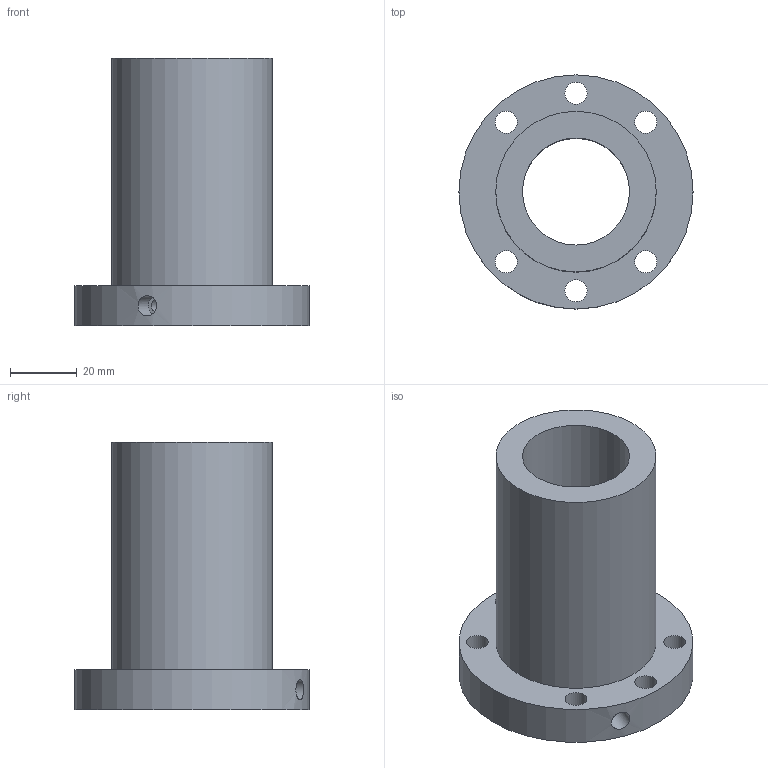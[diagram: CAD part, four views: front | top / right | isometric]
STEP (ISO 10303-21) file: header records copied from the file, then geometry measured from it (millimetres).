
FILE_DESCRIPTION(/* description */ (''),/* implementation_level */ '2;1');
FILE_NAME(/* name */ '32-5K4_3175',/* time_stamp */ '2007-10-15T12:54:00+08:00',/* author */ (''),/* organization */ (''),/* preprocessor_version */ 'ST-DEVELOPER v11',/* originating_system */ 'UGS - NX 5.0',/* authorisation */ '');
FILE_SCHEMA (('CONFIG_CONTROL_DESIGN'));
Length unit declared in the file: millimetre
Products named in the file (1): 32-5K4_3175
Bounding box: 70 x 70 x 80 mm (x, y, z)
Volume: 102064.5 mm3; surface area: 28369.8 mm2
Topology: 1 solids, 1 shells, 15 faces, 34 edges, 23 vertices
Faces by surface type: cylinder 11, plane 4
Full cylindrical faces by diameter (mm): 4 x1, 6 x1, 6.6 x6, 32 x1, 48 x1, 70 x1
Entity records: 600 total; most frequent: CARTESIAN_POINT 174, DIRECTION 72, FACE_BOUND 44, EDGE_LOOP 44, ORIENTED_EDGE 44, AXIS2_PLACEMENT_3D 36, VERTEX_POINT 22, EDGE_CURVE 22
